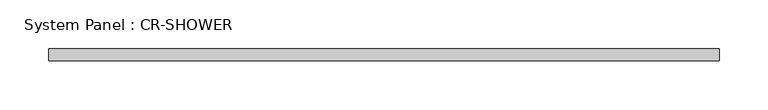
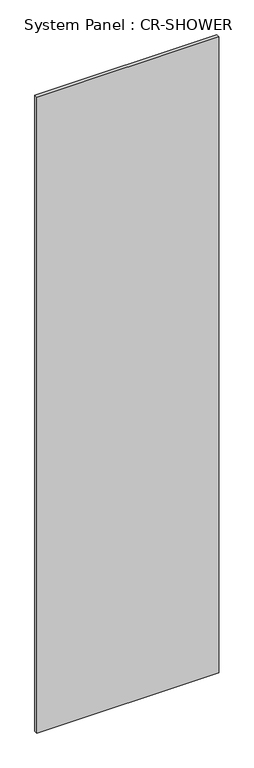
"""IFC4 building model written with IfcOpenShell, lengths in millimetres: plate geometry, System Panel : CR-SHOWER."""

import ifcopenshell
import ifcopenshell.guid

model = None  # the IFC model being written
_history = None  # IfcOwnerHistory: only IFC2X3 demands one
_inside = {}  # id of a spatial element -> (the spatial element, [elements in it])
_under = {}  # id of a project, library or spatial element -> (it, [spatial elements below it])
_declared = {}  # id of a project -> (the project, [libraries it declares])
_typed = {}  # id of a type object -> (the type object, [elements of that type])
_made_of = {}  # id of a material, layer set ... -> (it, [elements and type objects made of it])


def new_model(schema):
    """Start an empty IFC model of exactly this schema.

    Asked for "IFC4X3", IfcOpenShell would pick the latest addendum, in which some entities
    have other attributes; the version numbers below select the first issue.
    IFC2X3 requires an IfcOwnerHistory on every rooted entity: one is made here for all.
    """
    global model, _history
    if schema == "IFC4X3":
        model = ifcopenshell.file(schema_version=(4, 3, 0, 0))
    else:
        model = ifcopenshell.file(schema=schema)
    _inside.clear()
    _under.clear()
    _declared.clear()
    _typed.clear()
    _made_of.clear()
    _history = None
    if model.schema == "IFC2X3":
        org = make("IfcOrganization", Name="unknown")
        user = make(
            "IfcPersonAndOrganization",
            ThePerson=make("IfcPerson", FamilyName="unknown"),
            TheOrganization=org,
        )
        app = make(
            "IfcApplication",
            ApplicationDeveloper=org,
            Version="unknown",
            ApplicationFullName="unknown",
            ApplicationIdentifier="unknown",
        )
        _history = make(
            "IfcOwnerHistory",
            OwningUser=user,
            OwningApplication=app,
            ChangeAction="ADDED",
            CreationDate=0,
        )
    return model


def make(cls, **values):
    """One entity of the class cls with the attributes given. An attribute that is None is left unset."""
    return model.create_entity(
        cls, **{name: value for name, value in values.items() if value is not None}
    )


def rooted(cls, **values):
    """An entity with a GlobalId (a new one), such as an element, a storey or a relation."""
    return make(cls, GlobalId=ifcopenshell.guid.new(), OwnerHistory=_history, **values)


def si_unit(unit_type, name, prefix=None):
    """IfcSIUnit, for example si_unit("LENGTHUNIT", "METRE", prefix="MILLI")."""
    return make("IfcSIUnit", UnitType=unit_type, Prefix=prefix, Name=name)


def assignment(units):
    """IfcUnitAssignment: the units of a project."""
    return None if units is None else make("IfcUnitAssignment", Units=units)


def point(xyz):
    """IfcCartesianPoint."""
    return None if xyz is None else make("IfcCartesianPoint", Coordinates=xyz)


def direction(xyz):
    """IfcDirection."""
    return None if xyz is None else make("IfcDirection", DirectionRatios=xyz)


def frame(location, z_axis=None, x_axis=None):
    """IfcAxis2Placement3D, a coordinate frame: its origin and axes. An axis left out is left unset."""
    return make(
        "IfcAxis2Placement3D",
        Location=point(location),
        Axis=direction(z_axis),
        RefDirection=direction(x_axis),
    )


def origin():
    """The frame at (0, 0, 0) with its axes left unset."""
    return frame((0.0, 0.0, 0.0))


def origin_with_axes():
    """The frame at (0, 0, 0) with the z axis (0, 0, 1) and the x axis (1, 0, 0) written out."""
    return frame((0.0, 0.0, 0.0), z_axis=(0.0, 0.0, 1.0), x_axis=(1.0, 0.0, 0.0))


def place(relative_to, where):
    """IfcLocalPlacement: puts the frame where relative to a parent placement (None: the world)."""
    return make(
        "IfcLocalPlacement", PlacementRelTo=relative_to, RelativePlacement=where
    )


def context(
    kind, dimensions, precision=None, world=None, true_north=None, identifier=None
):
    """IfcGeometricRepresentationContext, for example the 3D "Model" context."""
    return make(
        "IfcGeometricRepresentationContext",
        ContextIdentifier=identifier,
        ContextType=kind,
        CoordinateSpaceDimension=dimensions,
        Precision=precision,
        WorldCoordinateSystem=world,
        TrueNorth=true_north,
    )


def project(units=None, contexts=None):
    """IfcProject with its units and contexts."""
    return rooted(
        "IfcProject",
        Name="project",
        RepresentationContexts=contexts,
        UnitsInContext=assignment(units),
    )


def spatial(cls, under=None, at=None, **own):
    """A site, building, storey or space (cls), placed at a placement, below another one or the project."""
    s = rooted(cls, ObjectPlacement=at, **own)
    if under is not None:
        _under.setdefault(under.id(), (under, []))[1].append(s)
    return s


def polyline(points):
    """IfcPolyline through the points."""
    return make("IfcPolyline", Points=[point(p) for p in points])


def outline(outer, holes=None, kind="AREA"):
    """IfcArbitraryClosedProfileDef: a profile drawn as a closed curve; with holes, ...WithVoids."""
    if holes is None:
        return make("IfcArbitraryClosedProfileDef", ProfileType=kind, OuterCurve=outer)
    return make(
        "IfcArbitraryProfileDefWithVoids",
        ProfileType=kind,
        OuterCurve=outer,
        InnerCurves=holes,
    )


def extrude(swept, where, along, depth):
    """IfcExtrudedAreaSolid: the profile swept, set in the frame where, extruded along a direction by depth."""
    return make(
        "IfcExtrudedAreaSolid",
        SweptArea=swept,
        Position=where,
        ExtrudedDirection=direction(along),
        Depth=depth,
    )


def shape(context_of_items, identifier, shape_type, items):
    """IfcShapeRepresentation: the items that make up one representation, for example the "Body"."""
    return make(
        "IfcShapeRepresentation",
        ContextOfItems=context_of_items,
        RepresentationIdentifier=identifier,
        RepresentationType=shape_type,
        Items=items,
    )


def source(mapping_origin, context_of_items, identifier, shape_type, items):
    """IfcRepresentationMap: a shape defined once, which mapped items show again and again."""
    return make(
        "IfcRepresentationMap",
        MappingOrigin=mapping_origin,
        MappedRepresentation=shape(context_of_items, identifier, shape_type, items),
    )


def transform(
    local_origin,
    x_axis=None,
    y_axis=None,
    z_axis=None,
    scale=None,
    scale2=None,
    scale3=None,
    uniform=True,
):
    """IfcCartesianTransformationOperator3D, or its non-uniform kind. x_axis, y_axis, z_axis: its Axis1, 2, 3."""
    if uniform:
        return make(
            "IfcCartesianTransformationOperator3D",
            Axis1=direction(x_axis),
            Axis2=direction(y_axis),
            LocalOrigin=point(local_origin),
            Scale=scale,
            Axis3=direction(z_axis),
        )
    return make(
        "IfcCartesianTransformationOperator3DnonUniform",
        Axis1=direction(x_axis),
        Axis2=direction(y_axis),
        LocalOrigin=point(local_origin),
        Scale=scale,
        Axis3=direction(z_axis),
        Scale2=scale2,
        Scale3=scale3,
    )


def mapped(mapping_source, mapping_target):
    """IfcMappedItem: shows the shape of a source again, moved by a transform."""
    return make(
        "IfcMappedItem", MappingSource=mapping_source, MappingTarget=mapping_target
    )


def made_of(thing, what):
    """Note that an element or type object is made of a material, layer set ...; save() writes the relation."""
    if what is not None:
        _made_of.setdefault(what.id(), (what, []))[1].append(thing)
    return thing


def element(
    cls,
    number,
    at=None,
    inside=None,
    cuts=None,
    type_object=None,
    material=None,
    context=None,
    identifier="Body",
    shape_type=None,
    held_by="IfcProductDefinitionShape",
    body=None,
    shapes=None,
    **own,
):
    """One element of the class cls, such as IfcWall. Its Tag is "e" and its number.

    at: its placement. inside: the storey or other place that contains it. cuts: it is an
    opening in that element (IfcRelVoidsElement). A single representation is given by context,
    identifier, shape_type and body (its items); several are given by shapes. held_by: the class
    of the entity that holds the representations. save() writes the other relations.
    """
    e = rooted(cls, Tag="e%d" % number, ObjectPlacement=at, **own)
    if body is not None:
        shapes = [shape(context, identifier, shape_type, body)]
    if shapes is not None:
        e.Representation = make(held_by, Representations=shapes)
    if inside is not None:
        _inside.setdefault(inside.id(), (inside, []))[1].append(e)
    if cuts is not None:
        rooted(
            "IfcRelVoidsElement", RelatingBuildingElement=cuts, RelatedOpeningElement=e
        )
    if type_object is not None:
        _typed.setdefault(type_object.id(), (type_object, []))[1].append(e)
    return made_of(e, material)


def aggregate(whole, parts):
    """IfcRelAggregates: a whole, such as a stair, and the parts it consists of."""
    return rooted("IfcRelAggregates", RelatingObject=whole, RelatedObjects=parts)


def save(model, path):
    """Write the relations noted so far, then the file.

    IfcRelAggregates (storeys below a building ...), IfcRelContainedInSpatialStructure (elements
    in a storey), IfcRelDefinesByType, IfcRelAssociatesMaterial and IfcRelDeclares: one each for
    every whole, place, type object, material and project.
    """
    for whole, parts in _under.values():
        aggregate(whole, parts)
    for where, things in _inside.values():
        rooted(
            "IfcRelContainedInSpatialStructure",
            RelatedElements=things,
            RelatingStructure=where,
        )
    for kind, things in _typed.values():
        rooted("IfcRelDefinesByType", RelatedObjects=things, RelatingType=kind)
    for what, things in _made_of.values():
        rooted("IfcRelAssociatesMaterial", RelatedObjects=things, RelatingMaterial=what)
    for by, libraries in _declared.values():
        rooted("IfcRelDeclares", RelatingContext=by, RelatedDefinitions=libraries)
    model.write(path)


def system_panel_cr_shower_306accba(model_context):
    return source(origin(), model_context, "Body", "SweptSolid", [
        extrude(outline(polyline([(345.0, -0.05), (-345.0, -0.05), (-345.0, 12.45), (345.0, 12.45), (345.0, -0.05)])), origin_with_axes(), (0.0, 0.0, 1.0), 2550.0),
    ])


if __name__ == "__main__":
    model = new_model("IFC4")
    model_context = context("Model", 3, world=origin())
    ifc_project = project(units=[si_unit("LENGTHUNIT", "METRE", prefix="MILLI")], contexts=[model_context])
    site = spatial("IfcSite", under=ifc_project)
    building = spatial("IfcBuilding", under=site)
    placement = place(None, origin())
    system_panel_cr_shower_shape = system_panel_cr_shower_306accba(model_context)
    element("IfcPlate", 1, ObjectType="System Panel : CR-SHOWER", at=placement, inside=building, context=model_context, shape_type="MappedRepresentation", body=[
        mapped(system_panel_cr_shower_shape, transform((0.0, 0.0, 0.0), x_axis=(1.0, 0.0, 0.0), y_axis=(0.0, 1.0, 0.0), z_axis=(0.0, 0.0, 1.0))),
    ])
    save(model, "model.ifc")
